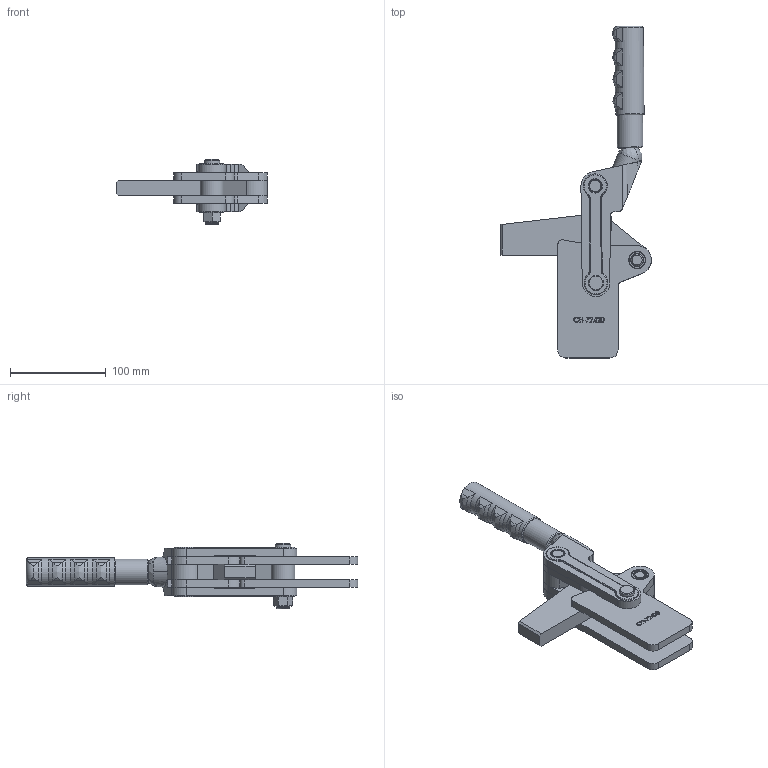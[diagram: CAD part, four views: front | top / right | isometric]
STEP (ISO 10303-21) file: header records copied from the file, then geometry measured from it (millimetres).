
FILE_DESCRIPTION(/* description */ ('STEP AP203'),/* implementation_level */ '2;1');
FILE_NAME(/* name */ 'D:\Vault_2016\Projekty\NASZ KATALOG\CLAMPTEK\STRONA\Heavy duty weldables\CH-72420\CH-72420_ZAMKNIETY.stp',/* time_stamp */ '2019-01-21T10:00:14+01:00',/* author */ ('CADENGINEERING4'),/* organization */ ('Î¢ÈíÖÐ¹ú'),/* preprocessor_version */ 'ST-DEVELOPER v17.2',/* originating_system */ 'Autodesk Inventor 2019',/* authorisation */ '');
FILE_SCHEMA (('AUTOMOTIVE_DESIGN { 1 0 10303 214 3 1 1 }'));
Products named in the file (12): CH-72420_ZAMKNIETY; 72425-08; 72425-03; CH-72420-02; 72425-07; 72425-10; M12; 72415-04; 72425-11; 72425-06; CH-72420-01; 72425-09
Assembly tree (18 placements, depth 2):
  CH-72420_ZAMKNIETY
    72425-08  x2
    72425-03  x2
    72425-06  x6
    CH-72420-02
    72425-07
    72425-10
    M12
    72415-04
    72425-11
    CH-72420-01
    72425-09
Bounding box: 157.99 x 347.48 x 68.5 mm (x, y, z)
Volume: 467512.2 mm3; surface area: 161561.7 mm2
Topology: 20 solids, 20 shells, 4032 faces, 11442 edges, 7644 vertices
Faces by surface type: plane 2420, cylinder 1463, torus 51, cone 50, bspline 48
Full cylindrical faces by diameter (mm): 10.5 x5, 11.5 x1, 12.5 x4, 13 x13, 13.2 x1, 13.8 x1, 16 x1, 18 x8, 21.25 x1, 24.6 x1, 25 x1, 26.75 x1, 29.8 x1
Entity records: 71813 total; most frequent: CARTESIAN_POINT 22429, DIRECTION 10378, ORIENTED_EDGE 10316, EDGE_CURVE 5158, AXIS2_PLACEMENT_3D 3572, VERTEX_POINT 3446, LINE 3234, VECTOR 3234
